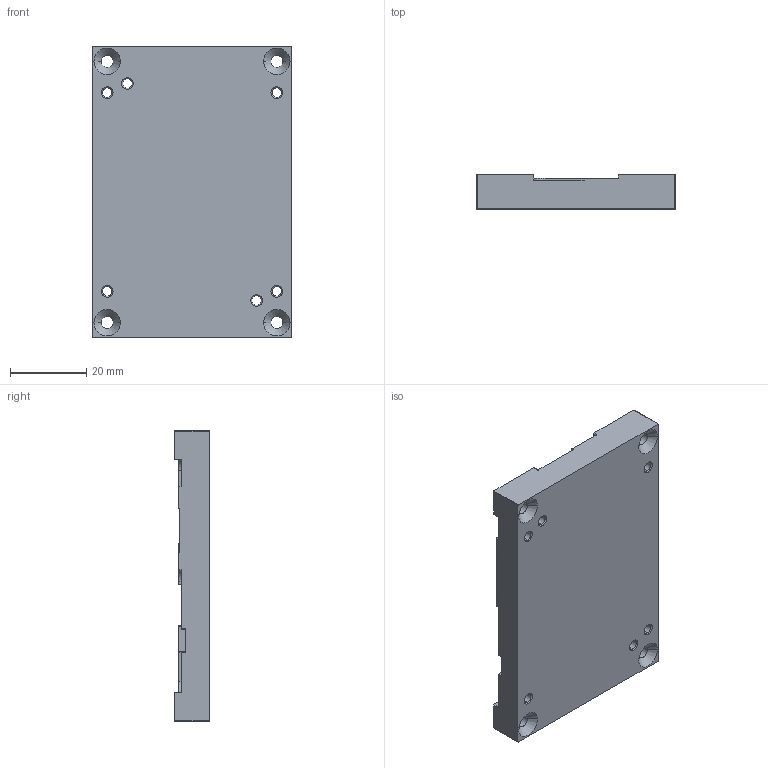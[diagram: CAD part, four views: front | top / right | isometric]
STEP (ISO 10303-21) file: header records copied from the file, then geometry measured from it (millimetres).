
FILE_DESCRIPTION (( 'STEP AP203' ), '1' );
FILE_NAME ('33811.STEP', '2023-08-27T20:22:14', ( '' ), ( '' ), 'SwSTEP 2.0', 'SolidWorks 2018', '' );
FILE_SCHEMA (( 'CONFIG_CONTROL_DESIGN' ));
Length unit declared in the file: millimetre
Products named in the file (1): 33811
Bounding box: 52 x 9 x 76 mm (x, y, z)
Volume: 27597.6 mm3; surface area: 11312.7 mm2
Topology: 1 solids, 1 shells, 272 faces, 767 edges, 494 vertices
Faces by surface type: cylinder 138, plane 97, cone 37
Entity records: 8932 total; most frequent: DIRECTION 1617, CARTESIAN_POINT 1538, ORIENTED_EDGE 1518, EDGE_CURVE 759, AXIS2_PLACEMENT_3D 589, VERTEX_POINT 494, VECTOR 439, LINE 439
